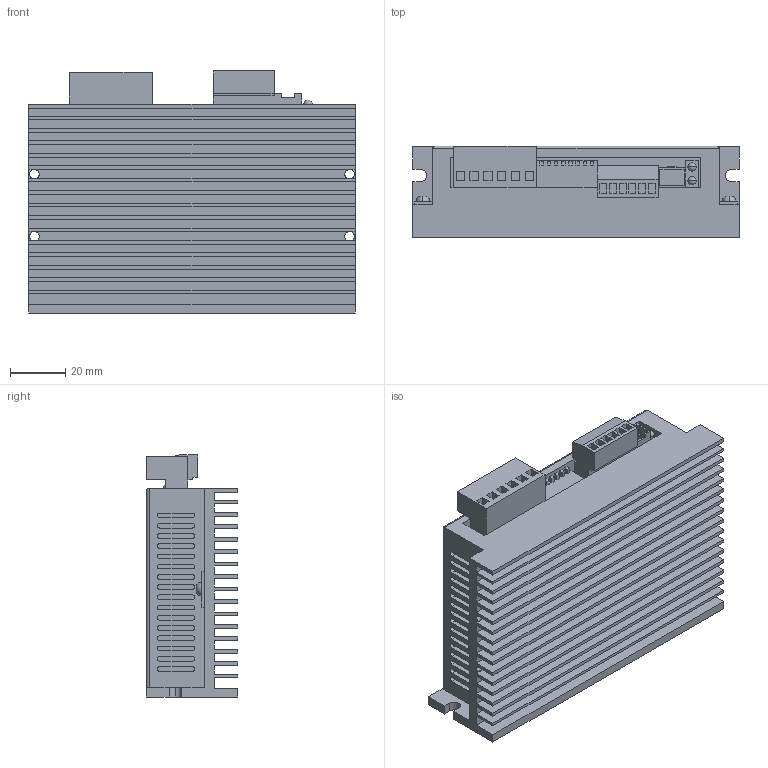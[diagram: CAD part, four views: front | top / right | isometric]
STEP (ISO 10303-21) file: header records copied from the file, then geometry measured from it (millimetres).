
FILE_DESCRIPTION (( 'STEP AP203' ), '1' );
FILE_NAME ('NT60.STEP', '2023-10-19T03:25:47', ( '' ), ( '' ), 'SwSTEP 2.0', 'SolidWorks 2020', '' );
FILE_SCHEMA (( 'CONFIG_CONTROL_DESIGN' ));
Length unit declared in the file: millimetre
Products named in the file (1): NT60
Bounding box: 118 x 33 x 87.5 mm (x, y, z)
Volume: 219866.2 mm3; surface area: 69947.2 mm2
Topology: 1 solids, 1 shells, 463 faces, 1209 edges, 796 vertices
Faces by surface type: plane 381, cylinder 74, sphere 4, torus 4
Entity records: 14076 total; most frequent: CARTESIAN_POINT 2463, ORIENTED_EDGE 2402, DIRECTION 2303, EDGE_CURVE 1201, LINE 1023, VECTOR 1023, VERTEX_POINT 792, AXIS2_PLACEMENT_3D 640
